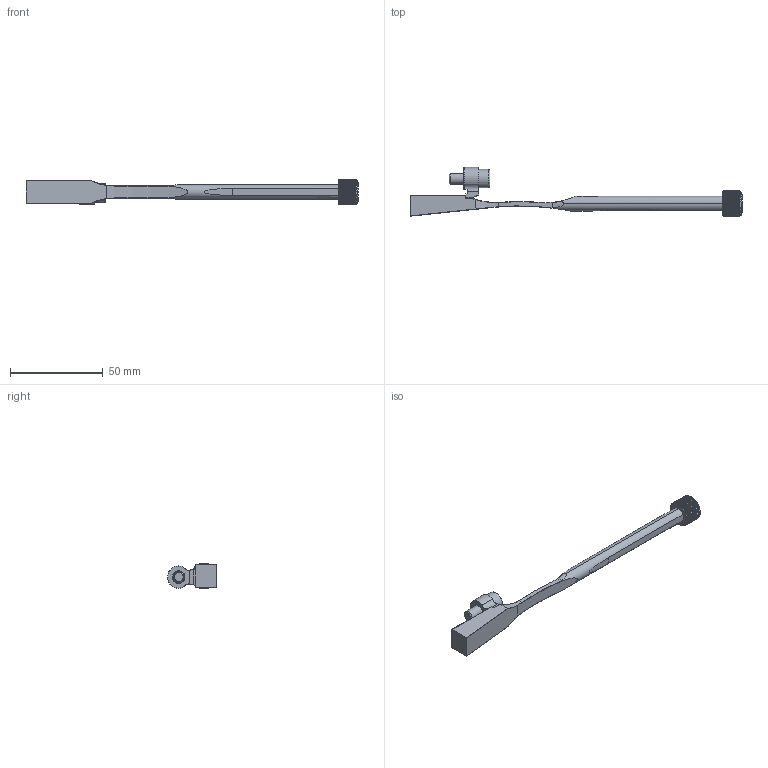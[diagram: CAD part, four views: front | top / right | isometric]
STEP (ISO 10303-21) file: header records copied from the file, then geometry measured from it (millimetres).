
FILE_DESCRIPTION (( 'STEP AP214' ), '1' );
FILE_NAME ('PX081230-175.STEP', '2020-02-10T09:56:00', ( '' ), ( '' ), 'SwSTEP 2.0', 'SolidWorks 2018', '' );
FILE_SCHEMA (( 'AUTOMOTIVE_DESIGN' ));
Length unit declared in the file: millimetre
Products named in the file (7): 9PX081230 cerrada; 9TP0810HX-1; 9TP0810HX; JT ﾘ8X1,5; PX081230-175; 9PX-TOPE; 1DIN912616_DIN 912 M6 x 16 --- 16C
Assembly tree (6 placements, depth 3):
  PX081230-175
    9PX081230 cerrada
    9PX-TOPE
    1DIN912616_DIN 912 M6 x 16 --- 16C
    9TP0810HX
      9TP0810HX-1
      JT ﾘ8X1,5
Bounding box: 178.5 x 26.4 x 13.8 mm (x, y, z)
Volume: 12204.5 mm3; surface area: 7916.6 mm2
Topology: 5 solids, 5 shells, 821 faces, 2264 edges, 1481 vertices
Faces by surface type: plane 324, bspline 267, cylinder 174, cone 28, torus 24, sphere 4
Entity records: 43653 total; most frequent: CARTESIAN_POINT 21193, ORIENTED_EDGE 4512, DIRECTION 2497, EDGE_CURVE 2256, VERTEX_POINT 1481, B_SPLINE_CURVE_WITH_KNOTS 1259, AXIS2_PLACEMENT_3D 944, EDGE_LOOP 863
